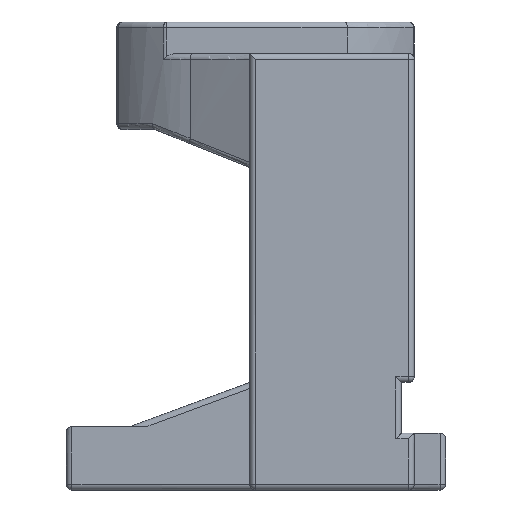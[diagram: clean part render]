
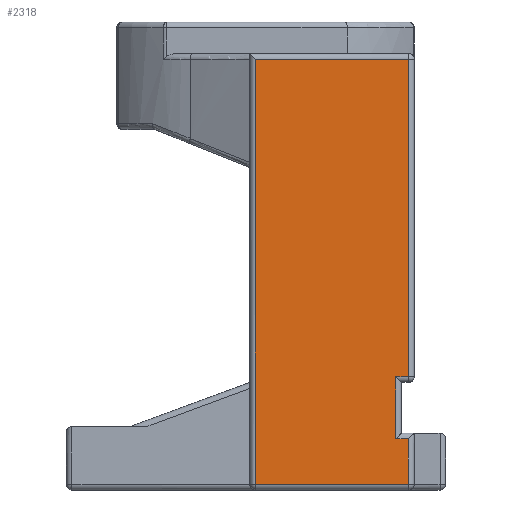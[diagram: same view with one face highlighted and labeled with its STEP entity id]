
A CAD part, left-side view. The second image highlights one B-rep face of the part: STEP entity #2318.
In plain terms, the highlighted planar face has unit normal (-1, 0, 0).
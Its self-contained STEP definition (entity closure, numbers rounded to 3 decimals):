
#130 = ORIENTED_EDGE ( 'NONE', *, *, #3751, .T. ) ;
#191 = CARTESIAN_POINT ( 'NONE',  ( -32.5, -24.1, -4.1 ) ) ;
#222 = EDGE_CURVE ( 'NONE', #5586, #3565, #6086, .T. ) ;
#471 = DIRECTION ( 'NONE',  ( 0., 1., 0. ) ) ;
#665 = EDGE_CURVE ( 'NONE', #2679, #2137, #4818, .T. ) ;
#702 = VECTOR ( 'NONE', #6869, 1000. ) ;
#1115 = VECTOR ( 'NONE', #2411, 1000. ) ;
#1151 = EDGE_CURVE ( 'NONE', #4249, #5709, #3738, .T. ) ;
#1373 = CARTESIAN_POINT ( 'NONE',  ( -32.5, -24.1, 3.1 ) ) ;
#1553 = VECTOR ( 'NONE', #6201, 1000. ) ;
#1637 = VECTOR ( 'NONE', #5664, 1000. ) ;
#1920 = ORIENTED_EDGE ( 'NONE', *, *, #222, .T. ) ;
#1924 = CARTESIAN_POINT ( 'NONE',  ( -32.5, -25., -4.1 ) ) ;
#2137 = VERTEX_POINT ( 'NONE', #3460 ) ;
#2311 = CARTESIAN_POINT ( 'NONE',  ( -32.5, -22.1, 3.1 ) ) ;
#2315 = AXIS2_PLACEMENT_3D ( 'NONE', #4135, #3080, #6824 ) ;
#2318 = ADVANCED_FACE ( 'NONE', ( #3450 ), #3053, .T. ) ;
#2319 = CARTESIAN_POINT ( 'NONE',  ( -32.5, -24.1, 12.9 ) ) ;
#2373 = VECTOR ( 'NONE', #2946, 1000. ) ;
#2411 = DIRECTION ( 'NONE',  ( 0., 0., -1. ) ) ;
#2432 = EDGE_CURVE ( 'NONE', #2137, #4701, #5444, .T. ) ;
#2679 = VERTEX_POINT ( 'NONE', #2319 ) ;
#2753 = DIRECTION ( 'NONE',  ( 0., 0., 1. ) ) ;
#2946 = DIRECTION ( 'NONE',  ( 0., 1., 0. ) ) ;
#2978 = LINE ( 'NONE', #3496, #1553 ) ;
#3053 = PLANE ( 'NONE',  #2315 ) ;
#3080 = DIRECTION ( 'NONE',  ( -1., 0., 0. ) ) ;
#3341 = CARTESIAN_POINT ( 'NONE',  ( -32.5, 0.1, 63.1 ) ) ;
#3367 = ORIENTED_EDGE ( 'NONE', *, *, #5251, .T. ) ;
#3410 = VECTOR ( 'NONE', #4239, 1000. ) ;
#3450 = FACE_OUTER_BOUND ( 'NONE', #6357, .T. ) ;
#3460 = CARTESIAN_POINT ( 'NONE',  ( -32.5, -24.1, 63.1 ) ) ;
#3472 = CARTESIAN_POINT ( 'NONE',  ( -32.5, -23., 3.1 ) ) ;
#3496 = CARTESIAN_POINT ( 'NONE',  ( -32.5, -25., 12.9 ) ) ;
#3565 = VERTEX_POINT ( 'NONE', #3982 ) ;
#3718 = CARTESIAN_POINT ( 'NONE',  ( -32.5, -24.1, 64. ) ) ;
#3738 = LINE ( 'NONE', #4741, #702 ) ;
#3751 = EDGE_CURVE ( 'NONE', #4701, #5090, #3979, .T. ) ;
#3762 = EDGE_CURVE ( 'NONE', #5709, #5586, #6656, .T. ) ;
#3979 = LINE ( 'NONE', #5599, #1115 ) ;
#3982 = CARTESIAN_POINT ( 'NONE',  ( -32.5, -22.1, 12.9 ) ) ;
#4013 = ORIENTED_EDGE ( 'NONE', *, *, #665, .T. ) ;
#4135 = CARTESIAN_POINT ( 'NONE',  ( -32.5, -25., 64. ) ) ;
#4235 = CARTESIAN_POINT ( 'NONE',  ( -32.5, -25., 63.1 ) ) ;
#4239 = DIRECTION ( 'NONE',  ( 0., 0., 1. ) ) ;
#4249 = VERTEX_POINT ( 'NONE', #191 ) ;
#4364 = CARTESIAN_POINT ( 'NONE',  ( -32.5, -22.1, 12. ) ) ;
#4425 = CARTESIAN_POINT ( 'NONE',  ( -32.5, 0.1, -4.1 ) ) ;
#4490 = VECTOR ( 'NONE', #2753, 1000. ) ;
#4701 = VERTEX_POINT ( 'NONE', #3341 ) ;
#4741 = CARTESIAN_POINT ( 'NONE',  ( -32.5, -24.1, 4. ) ) ;
#4818 = LINE ( 'NONE', #3718, #3410 ) ;
#5090 = VERTEX_POINT ( 'NONE', #4425 ) ;
#5189 = ORIENTED_EDGE ( 'NONE', *, *, #2432, .T. ) ;
#5251 = EDGE_CURVE ( 'NONE', #3565, #2679, #2978, .T. ) ;
#5444 = LINE ( 'NONE', #4235, #6880 ) ;
#5586 = VERTEX_POINT ( 'NONE', #2311 ) ;
#5599 = CARTESIAN_POINT ( 'NONE',  ( -32.5, 0.1, -5. ) ) ;
#5637 = ORIENTED_EDGE ( 'NONE', *, *, #3762, .T. ) ;
#5664 = DIRECTION ( 'NONE',  ( 0., -1., 0. ) ) ;
#5709 = VERTEX_POINT ( 'NONE', #1373 ) ;
#5748 = EDGE_CURVE ( 'NONE', #5090, #4249, #5910, .T. ) ;
#5785 = ORIENTED_EDGE ( 'NONE', *, *, #1151, .T. ) ;
#5910 = LINE ( 'NONE', #1924, #1637 ) ;
#5924 = ORIENTED_EDGE ( 'NONE', *, *, #5748, .T. ) ;
#6086 = LINE ( 'NONE', #4364, #4490 ) ;
#6201 = DIRECTION ( 'NONE',  ( 0., -1., 0. ) ) ;
#6357 = EDGE_LOOP ( 'NONE', ( #5637, #1920, #3367, #4013, #5189, #130, #5924, #5785 ) ) ;
#6656 = LINE ( 'NONE', #3472, #2373 ) ;
#6824 = DIRECTION ( 'NONE',  ( 0., 1., 0. ) ) ;
#6869 = DIRECTION ( 'NONE',  ( 0., 0., 1. ) ) ;
#6880 = VECTOR ( 'NONE', #471, 1000. ) ;
